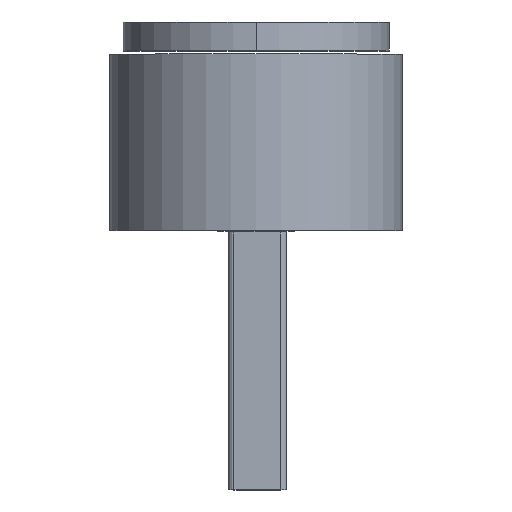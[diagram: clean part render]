
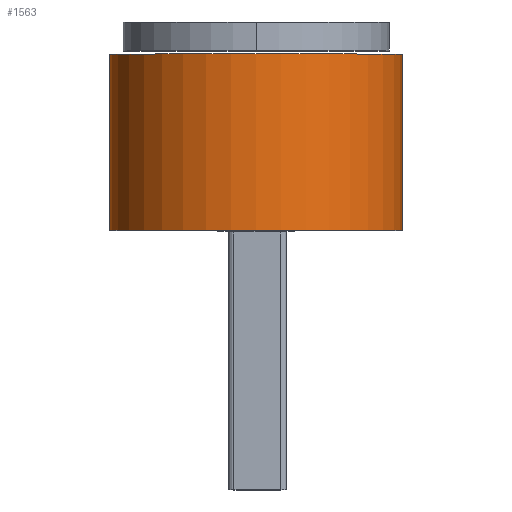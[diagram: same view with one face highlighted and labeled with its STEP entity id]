
A CAD part, top view. The second image highlights one B-rep face of the part: STEP entity #1563.
In plain terms, the highlighted cylindrical face has radius 37.5 mm (diameter 75 mm), a partial arc.
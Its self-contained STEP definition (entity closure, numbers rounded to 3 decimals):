
#138=FACE_OUTER_BOUND('',#233,.T.);
#233=EDGE_LOOP('',(#1105,#1106,#1107,#1108));
#333=LINE('',#2349,#498);
#334=LINE('',#2352,#499);
#498=VECTOR('',#1854,304.8);
#499=VECTOR('',#1857,304.8);
#665=CIRCLE('',#1673,37.5);
#666=CIRCLE('',#1674,37.5);
#728=VERTEX_POINT('',#2345);
#729=VERTEX_POINT('',#2346);
#730=VERTEX_POINT('',#2348);
#731=VERTEX_POINT('',#2350);
#876=EDGE_CURVE('',#728,#729,#665,.T.);
#877=EDGE_CURVE('',#730,#728,#333,.T.);
#878=EDGE_CURVE('',#731,#730,#666,.T.);
#879=EDGE_CURVE('',#729,#731,#334,.T.);
#1105=ORIENTED_EDGE('',*,*,#876,.F.);
#1106=ORIENTED_EDGE('',*,*,#877,.F.);
#1107=ORIENTED_EDGE('',*,*,#878,.F.);
#1108=ORIENTED_EDGE('',*,*,#879,.F.);
#1531=CYLINDRICAL_SURFACE('',#1672,37.5);
#1563=ADVANCED_FACE('',(#138),#1531,.T.);
#1672=AXIS2_PLACEMENT_3D('',#2344,#1850,#1851);
#1673=AXIS2_PLACEMENT_3D('',#2347,#1852,#1853);
#1674=AXIS2_PLACEMENT_3D('',#2351,#1855,#1856);
#1850=DIRECTION('center_axis',(0.,1.,0.));
#1851=DIRECTION('ref_axis',(0.,0.,
1.));
#1852=DIRECTION('center_axis',(0.,-1.,0.));
#1853=DIRECTION('ref_axis',(0.,0.,
-1.));
#1854=DIRECTION('',(0.,-1.,0.));
#1855=DIRECTION('center_axis',(0.,1.,0.));
#1856=DIRECTION('ref_axis',(0.,0.,
-1.));
#1857=DIRECTION('',(0.,1.,0.));
#2344=CARTESIAN_POINT('Origin',(-0.25,31.12,144.54));
#2345=CARTESIAN_POINT('',(37.25,31.12,144.54));
#2346=CARTESIAN_POINT('',(-37.75,31.12,144.54));
#2347=CARTESIAN_POINT('Origin',(-0.25,31.12,144.54));
#2348=CARTESIAN_POINT('',(37.25,76.149,144.54));
#2349=CARTESIAN_POINT('',(37.25,76.149,144.54));
#2350=CARTESIAN_POINT('',(-37.75,76.149,144.54));
#2351=CARTESIAN_POINT('Origin',(-0.25,76.149,144.54));
#2352=CARTESIAN_POINT('',(-37.75,31.12,144.54));
